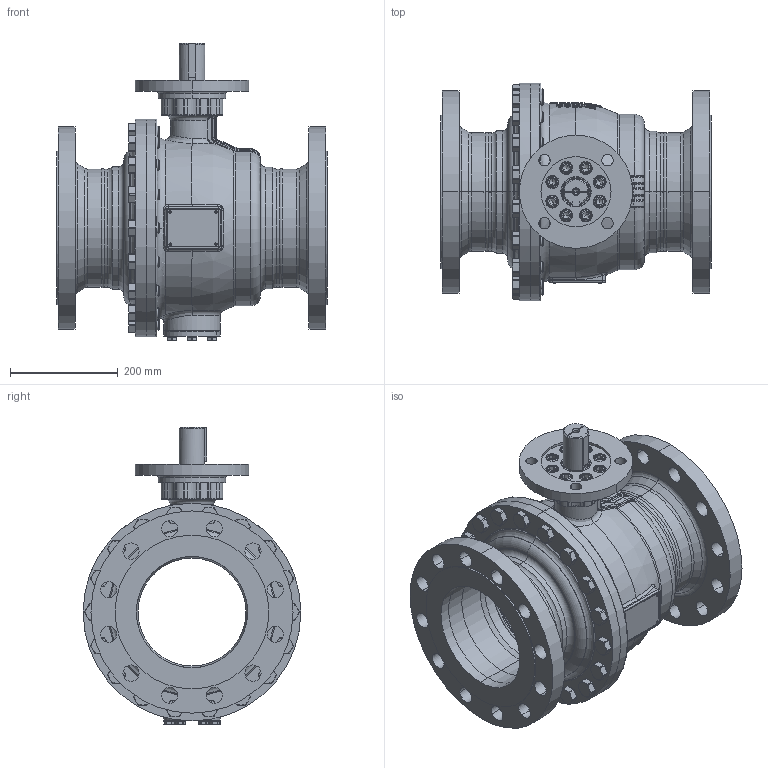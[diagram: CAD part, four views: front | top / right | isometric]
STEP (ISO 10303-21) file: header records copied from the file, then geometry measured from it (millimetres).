
FILE_DESCRIPTION((''),'2;1');
FILE_NAME('KHI-F_200_PN040-F16-P_SW0001','2026-02-05T13:02:56',('fischerkl'),('KLINGER'),'CREO PARAMETRIC BY PTC INC, 2023014','CREO PARAMETRIC BY PTC INC, 2023014','');
FILE_SCHEMA(('CONFIG_CONTROL_DESIGN'));
Products named in the file (1): KHI-F_200_PN040-F16-P_SW0001
Bounding box: 502 x 404 x 552.2 mm (x, y, z)
Volume: 14922168.8 mm3; surface area: 2440201.9 mm2
Topology: 1 solids, 4 shells, 3373 faces, 8532 edges, 5304 vertices
Faces by surface type: plane 1858, cylinder 720, cone 360, torus 297, bspline 108, sphere 30
Entity records: 134645 total; most frequent: CARTESIAN_POINT 54956, ORIENTED_EDGE 17012, DIRECTION 16130, EDGE_CURVE 8506, AXIS2_PLACEMENT_3D 5945, VERTEX_POINT 5304, VECTOR 4240, LINE 4240
